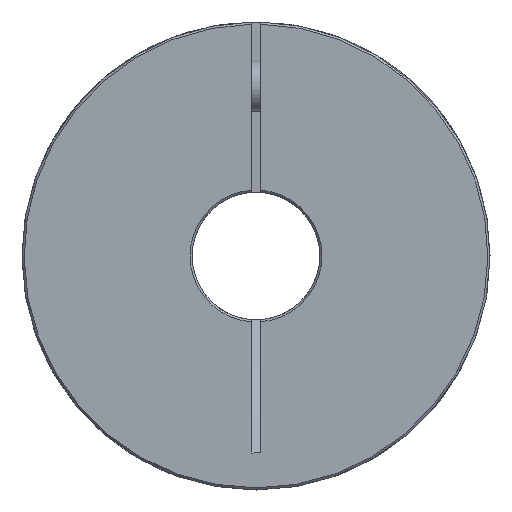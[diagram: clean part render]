
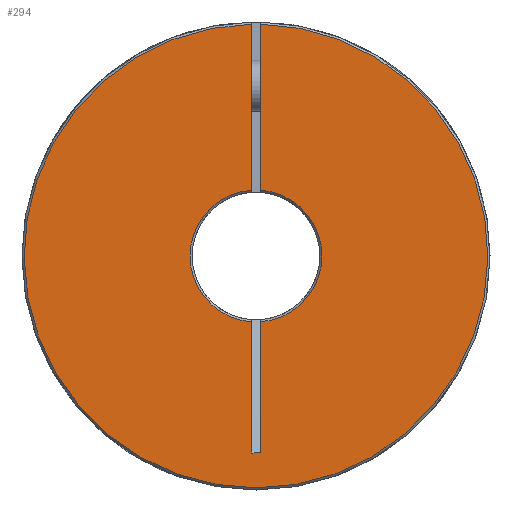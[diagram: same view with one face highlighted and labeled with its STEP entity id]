
A CAD part, left-side view. The second image highlights one B-rep face of the part: STEP entity #294.
In plain terms, the highlighted planar face has unit normal (-1, 0, 0).
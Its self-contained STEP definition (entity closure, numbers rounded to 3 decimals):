
#294 = ADVANCED_FACE( 'NONE', ( #618 ), #619, .F. );
#618 = FACE_OUTER_BOUND( '', #995, .T. );
#619 = PLANE( '', #996 );
#995 = EDGE_LOOP( '', ( #1512, #1513, #1514, #1515, #1516, #1517, #1518, #1519 ) );
#996 = AXIS2_PLACEMENT_3D( '', #1520, #1521, #1522 );
#1512 = ORIENTED_EDGE( '', *, *, #1983, .T. );
#1513 = ORIENTED_EDGE( '', *, *, #1921, .T. );
#1514 = ORIENTED_EDGE( '', *, *, #1886, .T. );
#1515 = ORIENTED_EDGE( '', *, *, #1955, .T. );
#1516 = ORIENTED_EDGE( '', *, *, #1855, .F. );
#1517 = ORIENTED_EDGE( '', *, *, #1966, .T. );
#1518 = ORIENTED_EDGE( '', *, *, #1984, .F. );
#1519 = ORIENTED_EDGE( '', *, *, #1985, .T. );
#1520 = CARTESIAN_POINT( '', ( 0., 15., 0. ) );
#1521 = DIRECTION( '', ( 1., 0., 0. ) );
#1522 = DIRECTION( '', ( 0., 1., 0. ) );
#1855 = EDGE_CURVE( 'NONE', #2115, #2117, #2118, .F. );
#1886 = EDGE_CURVE( 'NONE', #2166, #2167, #2168, .T. );
#1921 = EDGE_CURVE( 'NONE', #2221, #2166, #2222, .T. );
#1955 = EDGE_CURVE( 'NONE', #2167, #2117, #2267, .F. );
#1966 = EDGE_CURVE( 'NONE', #2115, #2281, #2284, .T. );
#1983 = EDGE_CURVE( 'NONE', #2308, #2221, #2309, .T. );
#1984 = EDGE_CURVE( 'NONE', #2310, #2281, #2311, .F. );
#1985 = EDGE_CURVE( 'NONE', #2310, #2308, #2312, .T. );
#2115 = VERTEX_POINT( 'NONE', #2556 );
#2117 = VERTEX_POINT( 'NONE', #2561 );
#2118 = LINE( '', #2562, #2563 );
#2166 = VERTEX_POINT( 'NONE', #2620 );
#2167 = VERTEX_POINT( 'NONE', #2621 );
#2168 = LINE( '', #2622, #2623 );
#2221 = VERTEX_POINT( 'NONE', #2691 );
#2222 = CIRCLE( '', #2692, 15.5 );
#2267 = CIRCLE( '', #2745, 54.5 );
#2281 = VERTEX_POINT( 'NONE', #2759 );
#2284 = CIRCLE( '', #2765, 15.5 );
#2308 = VERTEX_POINT( 'NONE', #2790 );
#2309 = LINE( '', #2791, #2792 );
#2310 = VERTEX_POINT( 'NONE', #2793 );
#2311 = LINE( '', #2794, #2795 );
#2312 = LINE( '', #2796, #2797 );
#2556 = CARTESIAN_POINT( '', ( 0., -15.468, -1. ) );
#2561 = CARTESIAN_POINT( '', ( 0., -54.491, -1. ) );
#2562 = CARTESIAN_POINT( '', ( 0., -15., -1. ) );
#2563 = VECTOR( '', #3016, 1000. );
#2620 = CARTESIAN_POINT( '', ( 0., -15.468, 1. ) );
#2621 = CARTESIAN_POINT( '', ( 0., -54.491, 1. ) );
#2622 = CARTESIAN_POINT( '', ( 0., 15., 1. ) );
#2623 = VECTOR( '', #3062, 1000. );
#2691 = CARTESIAN_POINT( '', ( 0., 15.468, 1. ) );
#2692 = AXIS2_PLACEMENT_3D( '', #3108, #3109, #3110 );
#2745 = AXIS2_PLACEMENT_3D( '', #3155, #3156, #3157 );
#2759 = CARTESIAN_POINT( '', ( 0., 15.468, -1. ) );
#2765 = AXIS2_PLACEMENT_3D( '', #3173, #3174, #3175 );
#2790 = CARTESIAN_POINT( '', ( 0., 46.303, 1. ) );
#2791 = CARTESIAN_POINT( '', ( 0., 15., 1. ) );
#2792 = VECTOR( '', #3201, 1000. );
#2793 = CARTESIAN_POINT( '', ( 0., 46.303, -1. ) );
#2794 = CARTESIAN_POINT( '', ( 0., -15., -1. ) );
#2795 = VECTOR( '', #3202, 1000. );
#2796 = CARTESIAN_POINT( '', ( 0., 46.303, -1. ) );
#2797 = VECTOR( '', #3203, 1000. );
#3016 = DIRECTION( '', ( 0., 1., 0. ) );
#3062 = DIRECTION( '', ( 0., -1., 0. ) );
#3108 = CARTESIAN_POINT( '', ( 0., 0., 0. ) );
#3109 = DIRECTION( '', ( 1., 0., 0. ) );
#3110 = DIRECTION( '', ( 0., 0., -1. ) );
#3155 = CARTESIAN_POINT( '', ( 0., 0., 0. ) );
#3156 = DIRECTION( '', ( 1., 0., 0. ) );
#3157 = DIRECTION( '', ( 0., 0., -1. ) );
#3173 = CARTESIAN_POINT( '', ( 0., 0., 0. ) );
#3174 = DIRECTION( '', ( 1., 0., 0. ) );
#3175 = DIRECTION( '', ( 0., 0., -1. ) );
#3201 = DIRECTION( '', ( 0., -1., 0. ) );
#3202 = DIRECTION( '', ( 0., 1., 0. ) );
#3203 = DIRECTION( '', ( 0., 0., 1. ) );
